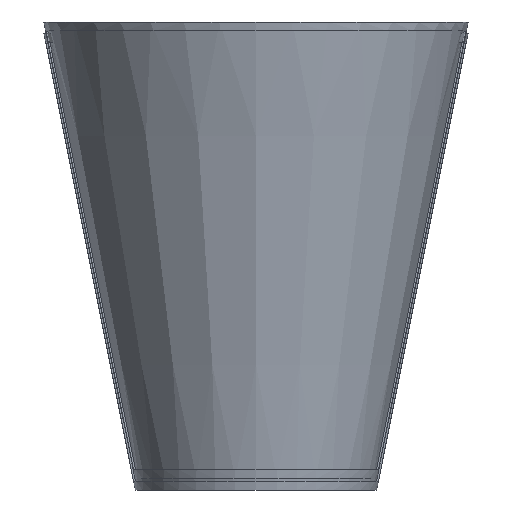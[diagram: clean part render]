
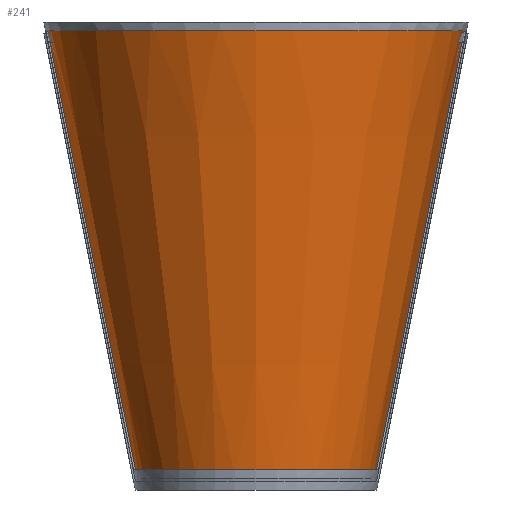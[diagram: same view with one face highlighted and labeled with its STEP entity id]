
A CAD part, front view. The second image highlights one B-rep face of the part: STEP entity #241.
In plain terms, the highlighted conical face has half-angle 11.31 degrees and reference radius 65 mm.
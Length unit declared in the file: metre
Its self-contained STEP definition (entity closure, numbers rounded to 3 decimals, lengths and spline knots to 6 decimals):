
#241 = ADVANCED_FACE( '', ( #286 ), #287, .T. );
#286 = FACE_OUTER_BOUND( '', #332, .T. );
#287 = CONICAL_SURFACE( '', #333, 0.065, 0.197 );
#332 = EDGE_LOOP( '', ( #462, #463, #464, #465 ) );
#333 = AXIS2_PLACEMENT_3D( '', #466, #467, #468 );
#462 = ORIENTED_EDGE( '', *, *, #515, .T. );
#463 = ORIENTED_EDGE( '', *, *, #506, .T. );
#464 = ORIENTED_EDGE( '', *, *, #512, .F. );
#465 = ORIENTED_EDGE( '', *, *, #513, .F. );
#466 = CARTESIAN_POINT( '', ( 0., 0., -0.125 ) );
#467 = DIRECTION( '', ( 0., 0., 1. ) );
#468 = DIRECTION( '', ( 1., 0., 0. ) );
#506 = EDGE_CURVE( '', #569, #567, #570, .T. );
#512 = EDGE_CURVE( '', #577, #567, #579, .T. );
#513 = EDGE_CURVE( '', #580, #577, #581, .T. );
#515 = EDGE_CURVE( '', #580, #569, #583, .T. );
#567 = VERTEX_POINT( '', #651 );
#569 = VERTEX_POINT( '', #654 );
#570 = CIRCLE( '', #655, 0.115 );
#577 = VERTEX_POINT( '', #665 );
#579 = LINE( '', #668, #669 );
#580 = VERTEX_POINT( '', #670 );
#581 = CIRCLE( '', #671, 0.065 );
#583 = LINE( '', #674, #675 );
#651 = CARTESIAN_POINT( '', ( -0.115, 0., 0.125 ) );
#654 = CARTESIAN_POINT( '', ( 0.115, 0., 0.125 ) );
#655 = AXIS2_PLACEMENT_3D( '', #732, #733, #734 );
#665 = CARTESIAN_POINT( '', ( -0.065, 0., -0.125 ) );
#668 = CARTESIAN_POINT( '', ( -0.065, 0., -0.125 ) );
#669 = VECTOR( '', #742, 1. );
#670 = CARTESIAN_POINT( '', ( 0.065, 0., -0.125 ) );
#671 = AXIS2_PLACEMENT_3D( '', #743, #744, #745 );
#674 = CARTESIAN_POINT( '', ( 0.065, 0., -0.125 ) );
#675 = VECTOR( '', #747, 1. );
#732 = CARTESIAN_POINT( '', ( 0., 0., 0.125 ) );
#733 = DIRECTION( '', ( 0., 0., -1. ) );
#734 = DIRECTION( '', ( -1., 0., 0. ) );
#742 = DIRECTION( '', ( -0.196, 0., 0.981 ) );
#743 = CARTESIAN_POINT( '', ( 0., 0., -0.125 ) );
#744 = DIRECTION( '', ( 0., 0., -1. ) );
#745 = DIRECTION( '', ( -1., 0., 0. ) );
#747 = DIRECTION( '', ( 0.196, 0., 0.981 ) );
